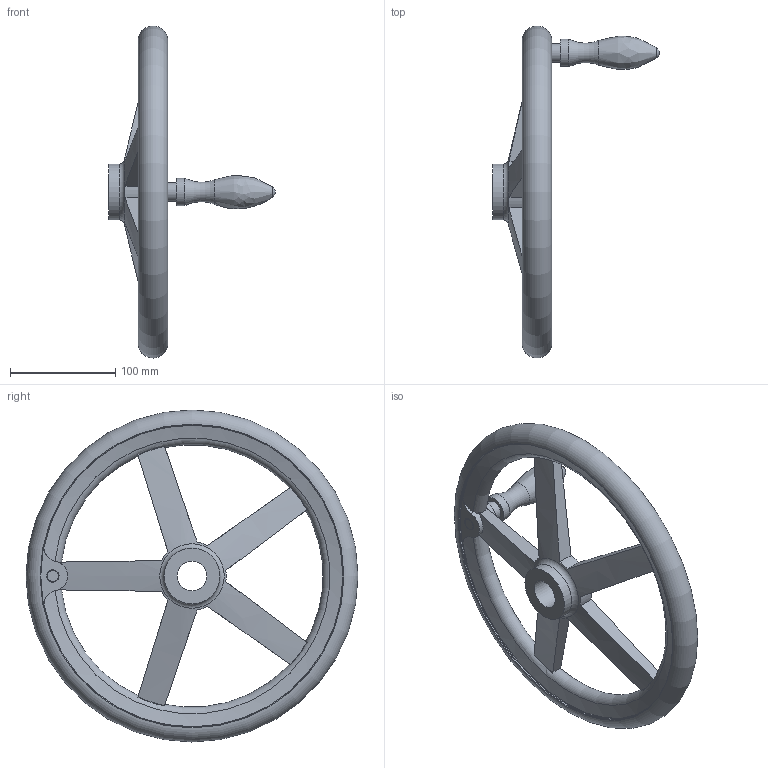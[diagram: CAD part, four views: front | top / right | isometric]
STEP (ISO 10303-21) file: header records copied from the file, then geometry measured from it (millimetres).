
FILE_DESCRIPTION( ( 'STEP AP203' ), '1' );
FILE_NAME( 'C:/Temp/Ganter_Step_05_03_2020/data/1_3/din_950/din_950_b/din_950_b_d/Handwheel DIN 950-AL-315-B28-D.stp', '2020-03-05T10:29:54', ( 'License CC BY-ND 4.0' ), ( 'CADENAS' ), ' ', 'PARTsolutions', ' ' );
FILE_SCHEMA( ( 'CONFIG_CONTROL_DESIGN' ) );
Length unit declared in the file: millimetre
Products named in the file (1): _Handwheel DIN 950-AL-315-B28-D
Bounding box: 158 x 315 x 315 mm (x, y, z)
Volume: 857335.3 mm3; surface area: 144259.8 mm2
Topology: 1 solids, 1 shells, 63 faces, 182 edges, 117 vertices
Faces by surface type: torus 21, cylinder 18, plane 16, cone 6, bspline 1, sphere 1
Full cylindrical faces by diameter (mm): 18 x1, 26 x1, 28 x1, 53 x2, 287 x2
Entity records: 2570 total; most frequent: CARTESIAN_POINT 1052, ORIENTED_EDGE 310, DIRECTION 278, EDGE_CURVE 155, AXIS2_PLACEMENT_3D 132, VERTEX_POINT 113, EDGE_LOOP 92, FACE_OUTER_BOUND 79
